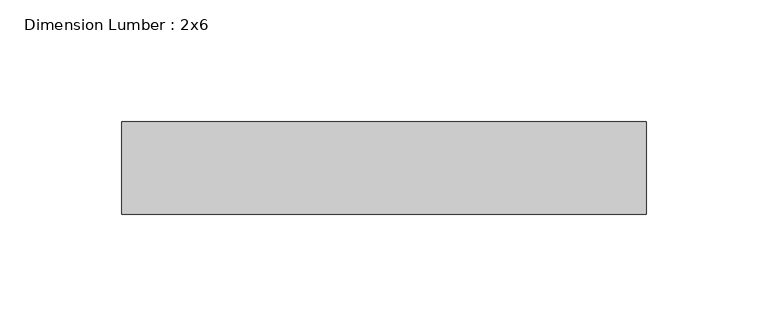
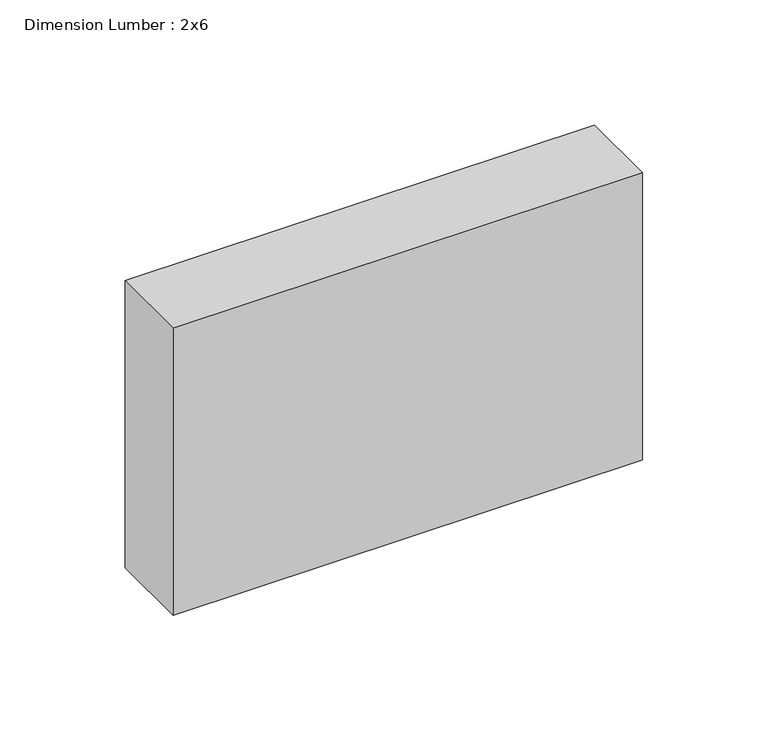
"""IFC4 building model written with IfcOpenShell, lengths in millimetres: beam geometry, Dimension Lumber : 2x6."""

from ifc_helpers import new_model, si_unit, frame, origin, place, context, project, spatial, polyline, outline, extrude, source, transform, mapped, element, save


def dimension_lumber_2x6_dfa94eba(model_context):
    return source(origin(), model_context, "Body", "SweptSolid", [
        extrude(outline(polyline([(107.95, 19.05), (107.95, -19.05), (-107.95, -19.05), (-107.95, 19.05), (107.95, 19.05)])), frame((0.0, 0.0, -69.85), z_axis=(0.0, 0.0, 1.0), x_axis=(1.0, 0.0, 0.0)), (0.0, 0.0, 1.0), 139.7),
    ])


if __name__ == "__main__":
    model = new_model("IFC4")
    model_context = context("Model", 3, world=origin())
    ifc_project = project(units=[si_unit("LENGTHUNIT", "METRE", prefix="MILLI")], contexts=[model_context])
    site = spatial("IfcSite", under=ifc_project)
    building = spatial("IfcBuilding", under=site)
    placement = place(None, origin())
    dimension_lumber_2x6_shape = dimension_lumber_2x6_dfa94eba(model_context)
    element("IfcBeam", 1, ObjectType="Dimension Lumber : 2x6", at=placement, inside=building, context=model_context, shape_type="MappedRepresentation", body=[
        mapped(dimension_lumber_2x6_shape, transform((0.0, 0.0, 0.0), x_axis=(1.0, 0.0, 0.0), y_axis=(0.0, 1.0, 0.0), z_axis=(0.0, 0.0, 1.0))),
    ])
    save(model, "model.ifc")
